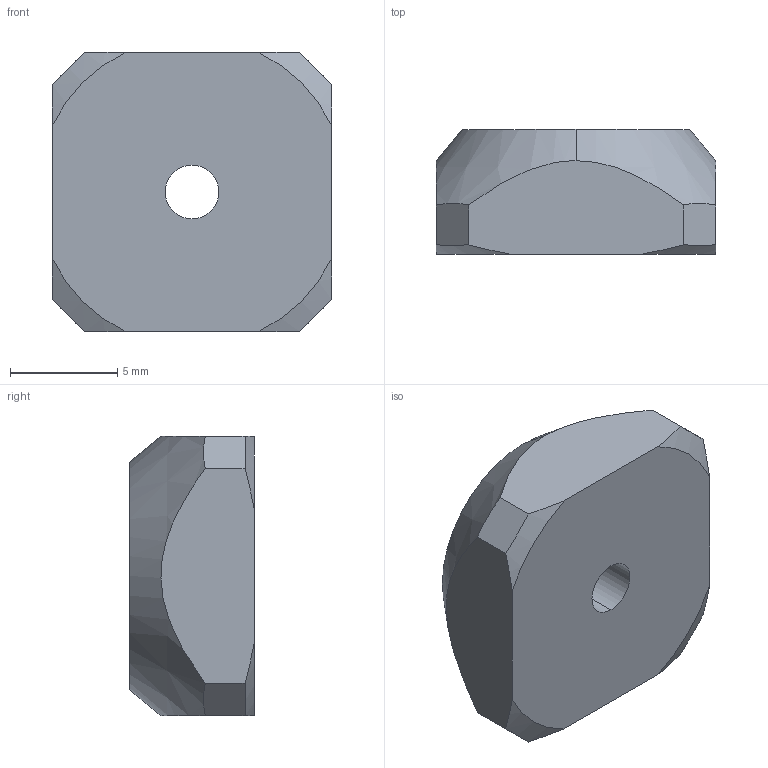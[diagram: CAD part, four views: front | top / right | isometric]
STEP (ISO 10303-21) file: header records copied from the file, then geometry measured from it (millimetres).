
FILE_DESCRIPTION (( 'STEP AP214' ), '1' );
FILE_NAME ('1.2005 Neliömutteri M3.STEP', '2025-09-05T10:12:05', ( '' ), ( '' ), 'SwSTEP 2.0', 'SolidWorks 2025', '' );
FILE_SCHEMA (( 'AUTOMOTIVE_DESIGN' ));
Length unit declared in the file: millimetre
Products named in the file (1): 1.2005 Neliömutteri M3
Bounding box: 13 x 5.8 x 13 mm (x, y, z)
Volume: 818.3 mm3; surface area: 566.7 mm2
Topology: 1 solids, 1 shells, 20 faces, 52 edges, 34 vertices
Faces by surface type: plane 10, cone 8, cylinder 2
Entity records: 743 total; most frequent: CARTESIAN_POINT 233, ORIENTED_EDGE 104, DIRECTION 84, EDGE_CURVE 52, VERTEX_POINT 34, AXIS2_PLACEMENT_3D 33, B_SPLINE_CURVE_WITH_KNOTS 22, EDGE_LOOP 22
